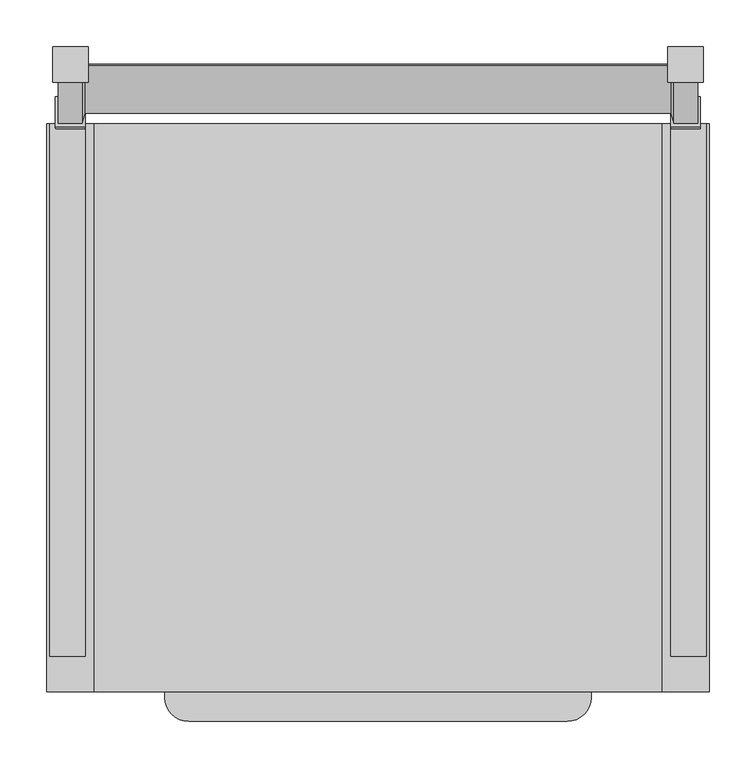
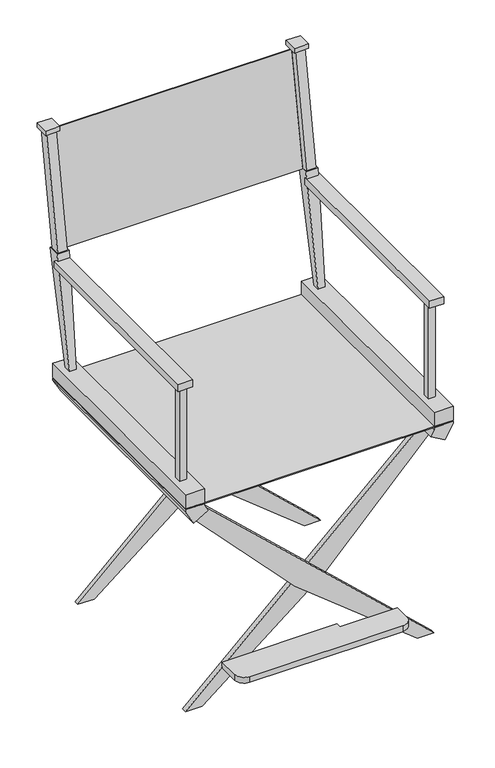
"""IFC4 building model written with IfcOpenShell, lengths in millimetres: furniture geometry, Directors Chair : Directors Chair."""

from ifc_helpers import new_model, si_unit, point, frame, frame_2d, origin, place, context, project, spatial, polyline, circle_curve, trimmed, segment, composite_curve, outline, extrude, faceted_brep, source, transform, mapped, element, save


def furniture_c30f7608(model_context):
    return source(origin(), model_context, "Body", "SolidModel", [
        extrude(outline(polyline([(-304.8, -304.8), (-355.6, -304.8), (-355.6, 304.8), (-304.8, 304.8), (-304.8, -304.8)])), frame((0.0, 0.0, 609.6), z_axis=(0.0, 0.0, 1.0), x_axis=(1.0, 0.0, 0.0)), (0.0, 0.0, 1.0), 38.1),
        extrude(outline(polyline([(606.425, -304.8), (606.425, -355.6), (600.075, -355.6), (561.975, -333.6029547), (583.9720453, -295.5029547), (600.075, -304.8), (606.425, -304.8)])), frame((0.0, -304.8, 0.0), z_axis=(0.0, 1.0, 0.0), x_axis=(0.0, 0.0, 1.0)), (0.0, 0.0, 1.0), 609.6),
        extrude(outline(polyline([(355.6, -304.8), (304.8, -304.8), (304.8, 304.8), (355.6, 304.8), (355.6, -304.8)])), frame((0.0, 0.0, 609.6), z_axis=(0.0, 0.0, 1.0), x_axis=(1.0, 0.0, 0.0)), (0.0, 0.0, 1.0), 38.1),
        extrude(outline(polyline([(606.425, 304.8), (600.075, 304.8), (583.9720453, 295.5029547), (561.975, 333.6029547), (600.075, 355.6), (606.425, 355.6), (606.425, 304.8)])), frame((0.0, -304.8, 0.0), z_axis=(0.0, 1.0, 0.0), x_axis=(0.0, 0.0, 1.0)), (0.0, 0.0, 1.0), 609.6),
        extrude(outline(polyline([(330.2, -304.8), (-330.2, -304.8), (-330.2, 304.8), (330.2, 304.8), (330.2, -304.8)])), frame((0.0, 0.0, 606.425), z_axis=(0.0, 0.0, 1.0), x_axis=(1.0, 0.0, 0.0)), (0.0, 0.0, 1.0), 3.175),
        faceted_brep([(-317.5, 355.6, 1257.3), (-314.325, 366.7125, 1257.3), (314.325, 366.7125, 1257.3), (317.5, 355.6, 1257.3), (342.9, 355.6, 1257.3), (342.9, 381.0, 1257.3), (317.5, 381.0, 1257.3), (314.325, 368.3, 1257.3), (-314.325, 368.3, 1257.3), (-317.5, 381.0, 1257.3), (-342.9, 381.0, 1257.3), (-342.9, 355.6, 1257.3), (-317.5, 304.8, 952.5), (-342.9, 304.8, 952.5), (-342.9, 330.2, 952.5), (-317.5, 330.2, 952.5), (-314.325, 317.5, 952.5), (314.325, 317.5, 952.5), (317.5, 330.2, 952.5), (342.9, 330.2, 952.5), (342.9, 304.8, 952.5), (317.5, 304.8, 952.5), (314.325, 315.9125, 952.5), (-314.325, 315.9125, 952.5)], [[[0, 1, 2, 3, 4, 5, 6, 7, 8, 9, 10, 11]], [[12, 13, 14, 15, 16, 17, 18, 19, 20, 21, 22, 23]], [[12, 23, 1, 0]], [[23, 22, 2, 1]], [[22, 21, 3, 2]], [[21, 20, 4, 3]], [[20, 19, 5, 4]], [[19, 18, 6, 5]], [[18, 17, 7, 6]], [[17, 16, 8, 7]], [[16, 15, 9, 8]], [[15, 14, 10, 9]], [[14, 13, 11, 10]], [[13, 12, 0, 11]]]),
        extrude(outline(polyline([(-311.15, 349.25), (-349.25, 349.25), (-349.25, 387.35), (-311.15, 387.35), (-311.15, 349.25)])), frame((0.0, 0.0, 1257.3), z_axis=(0.0, 0.0, 1.0), x_axis=(1.0, 0.0, 0.0)), (0.0, 0.0, 1.0), 12.7),
        extrude(outline(polyline([(349.25, 349.25), (311.15, 349.25), (311.15, 387.35), (349.25, 387.35), (349.25, 349.25)])), frame((0.0, 0.0, 1257.3), z_axis=(0.0, 0.0, 1.0), x_axis=(1.0, 0.0, 0.0)), (0.0, 0.0, 1.0), 12.7),
        extrude(outline(polyline([(0.0, 326.2354231), (582.3692283, -298.2791151), (563.3192283, -331.274683), (260.4908274, -42.8499597), (0.0, 282.6409753), (0.0, 326.2354231)])), frame((0.0, -266.7, 0.0), z_axis=(0.0, 1.0, 0.0), x_axis=(0.0, 0.0, 1.0)), (0.0, 0.0, 1.0), 12.7),
        extrude(outline(polyline([(0.0, 326.2354231), (582.3692283, -298.2791151), (563.3192283, -331.274683), (260.4908274, -42.8499597), (0.0, 282.6409753), (0.0, 326.2354231)])), frame((0.0, 254.0, 0.0), z_axis=(0.0, 1.0, 0.0), x_axis=(0.0, 0.0, 1.0)), (0.0, 0.0, 1.0), 12.7),
        extrude(outline(polyline([(0.0, -326.2354231), (0.0, -282.6409753), (260.4908274, 42.8499597), (563.3192283, 331.274683), (582.3692283, 298.2791151), (0.0, -326.2354231)])), frame((0.0, -254.0, 0.0), z_axis=(0.0, 1.0, 0.0), x_axis=(0.0, 0.0, 1.0)), (0.0, 0.0, 1.0), 12.7),
        extrude(outline(polyline([(0.0, -326.2354231), (0.0, -282.6409753), (260.4908274, 42.8499597), (563.3192283, 331.274683), (582.3692283, 298.2791151), (0.0, -326.2354231)])), frame((0.0, 241.3, 0.0), z_axis=(0.0, 1.0, 0.0), x_axis=(0.0, 0.0, 1.0)), (0.0, 0.0, 1.0), 12.7),
        extrude(outline(polyline([(-320.675, -250.825), (-339.725, -250.825), (-339.725, -231.775), (-320.675, -231.775), (-320.675, -250.825)])), frame((0.0, 0.0, 647.7), z_axis=(0.0, 0.0, 1.0), x_axis=(1.0, 0.0, 0.0)), (0.0, 0.0, 1.0), 266.7),
        extrude(outline(polyline([(320.675, -250.825), (320.675, -231.775), (339.725, -231.775), (339.725, -250.825), (320.675, -250.825)])), frame((0.0, 0.0, 647.7), z_axis=(0.0, 0.0, 1.0), x_axis=(1.0, 0.0, 0.0)), (0.0, 0.0, 1.0), 266.7),
        faceted_brep([(-314.325, -266.7, 933.45), (-352.425, -266.7, 933.45), (-352.425, -266.7, 914.4), (-314.325, -266.7, 914.4), (-314.325, 304.8, 933.45), (-314.325, 304.8, 914.4), (-315.11875, 304.8, 914.4), (-314.721875, 304.8, 933.45), (-352.425, 304.8, 914.4), (-352.425, 304.8, 933.45), (-345.678125, 304.8, 933.45), (-345.28125, 304.8, 914.4), (-314.721875, 298.846875, 933.45), (-345.678125, 298.846875, 933.45), (-345.28125, 296.06875, 914.4), (-315.11875, 296.06875, 914.4), (-314.325, 301.625, 952.5), (-314.325, 333.375, 952.5), (-346.075, 333.375, 952.5), (-346.075, 301.625, 952.5), (-320.675, 257.175, 647.7), (-339.725, 257.175, 647.7), (-339.725, 276.225, 647.7), (-320.675, 276.225, 647.7)], [[[0, 1, 2, 3]], [[4, 5, 6, 7]], [[8, 9, 10, 11]], [[1, 0, 4, 7, 12, 13, 10, 9]], [[2, 1, 9, 8]], [[3, 2, 8, 11, 14, 15, 6, 5]], [[0, 3, 5, 4]], [[16, 17, 18, 19]], [[20, 21, 22, 23]], [[17, 16, 12, 7, 6, 15, 20, 23]], [[18, 17, 23, 22]], [[19, 18, 22, 21, 14, 11, 10, 13]], [[16, 19, 13, 12]], [[21, 20, 15, 14]]]),
        faceted_brep([(314.325, -266.7, 933.45), (314.325, -266.7, 914.4), (352.425, -266.7, 914.4), (352.425, -266.7, 933.45), (352.425, 304.8, 933.45), (352.425, 304.8, 914.4), (345.28125, 304.8, 914.4), (345.678125, 304.8, 933.45), (314.325, 304.8, 914.4), (314.325, 304.8, 933.45), (314.721875, 304.8, 933.45), (315.11875, 304.8, 914.4), (315.11875, 296.06875, 914.4), (345.28125, 296.06875, 914.4), (345.678125, 298.846875, 933.45), (314.721875, 298.846875, 933.45), (314.325, 301.625, 952.5), (346.075, 301.625, 952.5), (346.075, 333.375, 952.5), (314.325, 333.375, 952.5), (320.675, 257.175, 647.7), (320.675, 276.225, 647.7), (339.725, 276.225, 647.7), (339.725, 257.175, 647.7)], [[[0, 1, 2, 3]], [[4, 5, 6, 7]], [[8, 9, 10, 11]], [[1, 0, 9, 8]], [[2, 1, 8, 11, 12, 13, 6, 5]], [[3, 2, 5, 4]], [[0, 3, 4, 7, 14, 15, 10, 9]], [[16, 17, 18, 19]], [[20, 21, 22, 23]], [[17, 16, 15, 14]], [[20, 23, 13, 12]], [[18, 17, 14, 7, 6, 13, 23, 22]], [[19, 18, 22, 21]], [[16, 19, 21, 20, 12, 11, 10, 15]]]),
        extrude(outline(composite_curve([segment(polyline([(76.2, -254.0), (76.2, -266.7), (228.6, -266.7), (228.6, -311.15)]), True, "CONTINUOUS"), segment(trimmed(circle_curve(frame_2d((203.2, -311.15)), 25.4), [point((228.6, -311.15))], [point((203.2, -336.55))], False, "CARTESIAN"), True, "CONTINUOUS"), segment(polyline([(203.2, -336.55), (-203.2, -336.55)]), True, "CONTINUOUS"), segment(trimmed(circle_curve(frame_2d((-203.2, -311.15)), 25.4), [point((-203.2, -336.55))], [point((-228.6, -311.15))], False, "CARTESIAN"), True, "CONTINUOUS"), segment(polyline([(-228.6, -311.15), (-228.6, -254.0), (76.2, -254.0)]), True, "CONTINUOUS")], self_intersect=False)), frame((0.0, 0.0, 88.9), z_axis=(0.0, 0.0, 1.0), x_axis=(1.0, 0.0, 0.0)), (0.0, 0.0, 1.0), 15.875),
    ])


if __name__ == "__main__":
    model = new_model("IFC4")
    model_context = context("Model", 3, world=origin())
    ifc_project = project(units=[si_unit("LENGTHUNIT", "METRE", prefix="MILLI")], contexts=[model_context])
    site = spatial("IfcSite", under=ifc_project)
    building = spatial("IfcBuilding", under=site)
    placement = place(None, origin())
    furniture_shape = furniture_c30f7608(model_context)
    element("IfcFurniture", 1, ObjectType="Directors Chair : Directors Chair", at=placement, inside=building, context=model_context, shape_type="MappedRepresentation", body=[
        mapped(furniture_shape, transform((0.0, 0.0, 0.0), x_axis=(1.0, 0.0, 0.0), y_axis=(0.0, 1.0, 0.0), z_axis=(0.0, 0.0, 1.0))),
    ])
    save(model, "model.ifc")
